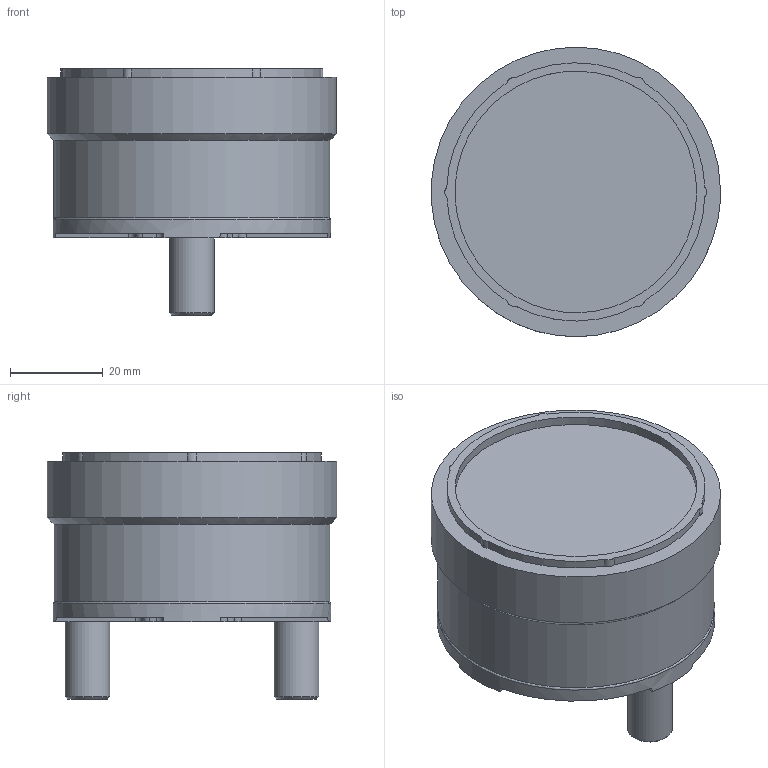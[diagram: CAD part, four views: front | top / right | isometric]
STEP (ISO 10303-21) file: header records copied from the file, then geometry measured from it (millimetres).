
FILE_DESCRIPTION(/* description */ (''),/* implementation_level */ '2;1');
FILE_NAME(/* name */ '53',/* time_stamp */ '2022-06-30T10:47:44+02:00',/* author */ (''),/* organization */ (''),/* preprocessor_version */ 'ST-DEVELOPER v16.5',/* originating_system */ 'Rhino 7.20',/* authorisation */ '');
FILE_SCHEMA (('AUTOMOTIVE_DESIGN_CC2'));
Length unit declared in the file: millimetre
Products named in the file (1): Document
Bounding box: 62.23 x 62.3 x 53 mm (x, y, z)
Volume: 100399.5 mm3; surface area: 14475.3 mm2
Topology: 1 solids, 1 shells, 80 faces, 191 edges, 124 vertices
Faces by surface type: plane 34, cylinder 27, bspline 19
Full cylindrical faces by diameter (mm): 4.2 x2, 5 x3, 9.64 x2, 52 x1, 59.4 x1, 59.8 x1, 62.3 x1
Entity records: 2363 total; most frequent: CARTESIAN_POINT 1087, ORIENTED_EDGE 382, EDGE_CURVE 191, VERTEX_POINT 124, B_SPLINE_CURVE_WITH_KNOTS 100, EDGE_LOOP 91, ADVANCED_FACE 80, FACE_OUTER_BOUND 80
